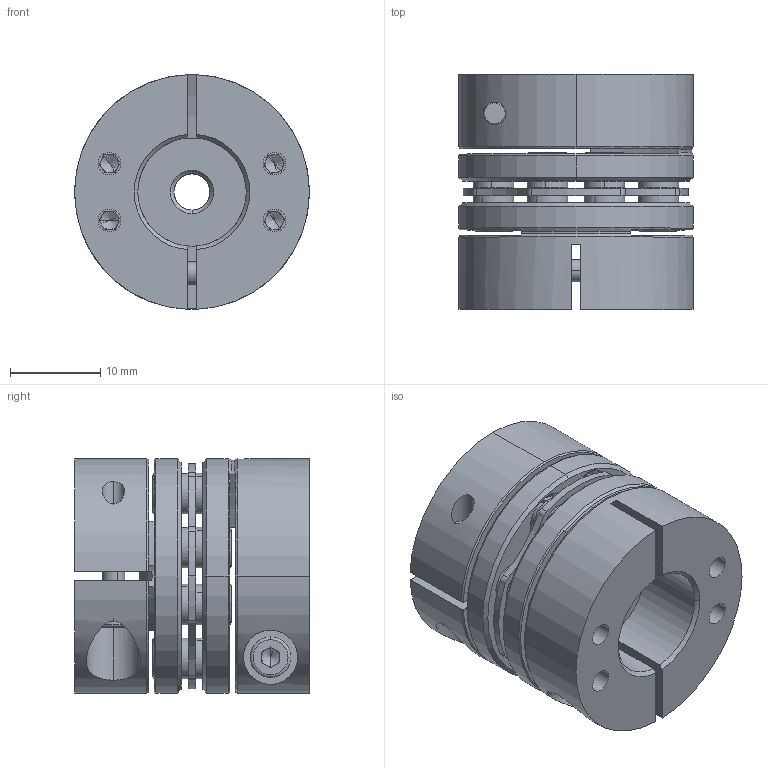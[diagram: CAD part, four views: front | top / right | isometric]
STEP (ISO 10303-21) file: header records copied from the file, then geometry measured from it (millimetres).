
FILE_DESCRIPTION (( 'STEP AP203' ), '1' );
FILE_NAME ('LDG-D26-4-12.STEP', '2021-10-28T03:21:31', ( '' ), ( '' ), 'SwSTEP 2.0', 'SolidWorks 2018', '' );
FILE_SCHEMA (( 'CONFIG_CONTROL_DESIGN' ));
Length unit declared in the file: millimetre
Products named in the file (2): 錨璃2^LDG-D26蚾饜芞1; LDG-D26-4-12
Assembly tree (1 placements, depth 2):
  LDG-D26-4-12
    錨璃2^LDG-D26蚾饜芞1
Bounding box: 26 x 26 x 26 mm (x, y, z)
Volume: 9848.6 mm3; surface area: 8952.9 mm2
Topology: 1 solids, 21 shells, 765 faces, 1872 edges, 1159 vertices
Faces by surface type: cylinder 301, plane 244, cone 200, torus 20
Entity records: 23059 total; most frequent: DIRECTION 4281, CARTESIAN_POINT 4166, ORIENTED_EDGE 3688, EDGE_CURVE 1844, AXIS2_PLACEMENT_3D 1740, VERTEX_POINT 1159, CIRCLE 971, EDGE_LOOP 909
